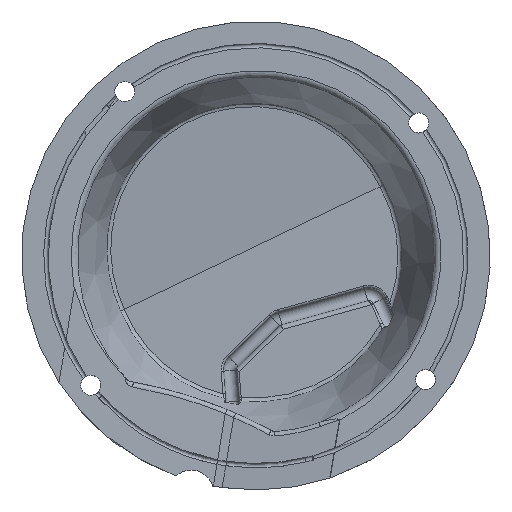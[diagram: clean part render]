
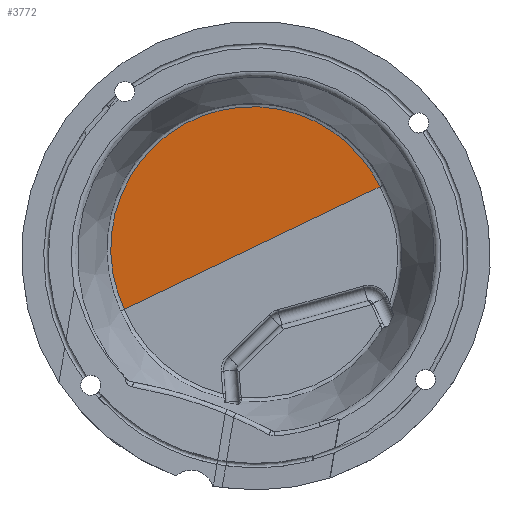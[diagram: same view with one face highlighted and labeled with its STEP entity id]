
A CAD part, top view. The second image highlights one B-rep face of the part: STEP entity #3772.
In plain terms, the highlighted planar face has unit normal (0.059, -0.123, 0.991).
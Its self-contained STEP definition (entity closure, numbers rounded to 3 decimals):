
#163=LINE('',#6955,#362);
#362=VECTOR('',#4428,1000.);
#561=ELLIPSE('',#4091,64.194,63.506);
#590=PLANE('',#4090);
#1235=ORIENTED_EDGE('',*,*,#2129,.T.);
#1236=ORIENTED_EDGE('',*,*,#2310,.T.);
#1237=ORIENTED_EDGE('',*,*,#2131,.T.);
#1238=ORIENTED_EDGE('',*,*,#2117,.T.);
#2117=EDGE_CURVE('',#2704,#2703,#163,.T.);
#2129=EDGE_CURVE('',#2703,#2711,#3049,.T.);
#2131=EDGE_CURVE('',#2712,#2704,#3051,.T.);
#2310=EDGE_CURVE('',#2711,#2712,#561,.F.);
#2703=VERTEX_POINT('',#6954);
#2704=VERTEX_POINT('',#6956);
#2711=VERTEX_POINT('',#6994);
#2712=VERTEX_POINT('',#7008);
#3049=B_SPLINE_CURVE_WITH_KNOTS('',3,(#6995,#6996,#6997,#6998),
 .UNSPECIFIED.,.F.,.F.,(4,4),(0.,0.),
 .UNSPECIFIED.);
#3051=B_SPLINE_CURVE_WITH_KNOTS('',3,(#7004,#7005,#7006,#7007),
 .UNSPECIFIED.,.F.,.F.,(4,4),(0.01,0.01),
 .UNSPECIFIED.);
#3270=EDGE_LOOP('',(#1235,#1236,#1237,#1238));
#3513=FACE_BOUND('',#3270,.T.);
#3772=ADVANCED_FACE('',(#3513),#590,.F.);
#4090=AXIS2_PLACEMENT_3D('',#8394,#4672,#4673);
#4091=AXIS2_PLACEMENT_3D('',#8395,#4674,#4675);
#4428=DIRECTION('',(0.902,0.432,0.));
#4672=DIRECTION('',(-0.059,0.123,-0.991));
#4673=DIRECTION('',(0.,0.992,0.124));
#4674=DIRECTION('',(-0.059,0.123,-0.991));
#4675=DIRECTION('',(-0.428,0.893,0.137));
#6954=CARTESIAN_POINT('',(55.586,30.934,-42.));
#6955=CARTESIAN_POINT('',(-54.521,-21.856,-42.));
#6956=CARTESIAN_POINT('',(-58.926,-23.968,-42.));
#6994=CARTESIAN_POINT('',(55.594,30.938,-42.));
#6995=CARTESIAN_POINT('',(55.586,30.934,-42.));
#6996=CARTESIAN_POINT('',(55.588,30.935,-42.));
#6997=CARTESIAN_POINT('',(55.591,30.936,-42.));
#6998=CARTESIAN_POINT('',(55.594,30.938,-42.));
#7004=CARTESIAN_POINT('',(-58.934,-23.971,-42.));
#7005=CARTESIAN_POINT('',(-58.931,-23.97,-42.));
#7006=CARTESIAN_POINT('',(-58.928,-23.969,-42.));
#7007=CARTESIAN_POINT('',(-58.926,-23.968,-42.));
#7008=CARTESIAN_POINT('',(-58.934,-23.971,-42.));
#8394=CARTESIAN_POINT('',(-1.365,2.847,-42.097));
#8395=CARTESIAN_POINT('',(-1.539,3.211,-42.042));
